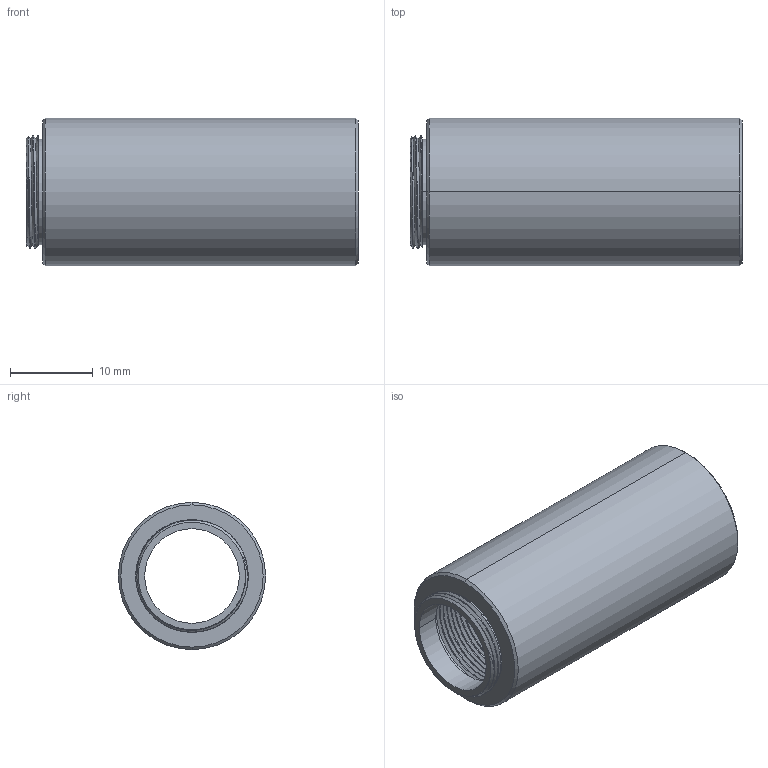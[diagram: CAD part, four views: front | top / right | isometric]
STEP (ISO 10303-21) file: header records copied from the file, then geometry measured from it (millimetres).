
FILE_DESCRIPTION((''),'2;1');
FILE_NAME('SM05L15','2022-11-14T',('daizh'),(''),'CREO PARAMETRIC BY PTC INC, 2018360','CREO PARAMETRIC BY PTC INC, 2018360','');
FILE_SCHEMA(('CONFIG_CONTROL_DESIGN'));
Length unit declared in the file: millimetre
Products named in the file (1): SM05L15
Bounding box: 40.1 x 17.78 x 17.78 mm (x, y, z)
Volume: 4209.3 mm3; surface area: 4725.2 mm2
Topology: 1 solids, 1 shells, 172 faces, 479 edges, 312 vertices
Faces by surface type: cylinder 123, bspline 36, cone 8, plane 5
Entity records: 19584 total; most frequent: CARTESIAN_POINT 15802, ORIENTED_EDGE 958, DIRECTION 486, EDGE_CURVE 479, VERTEX_POINT 312, B_SPLINE_CURVE_WITH_KNOTS 291, EDGE_LOOP 177, FACE_OUTER_BOUND 172
